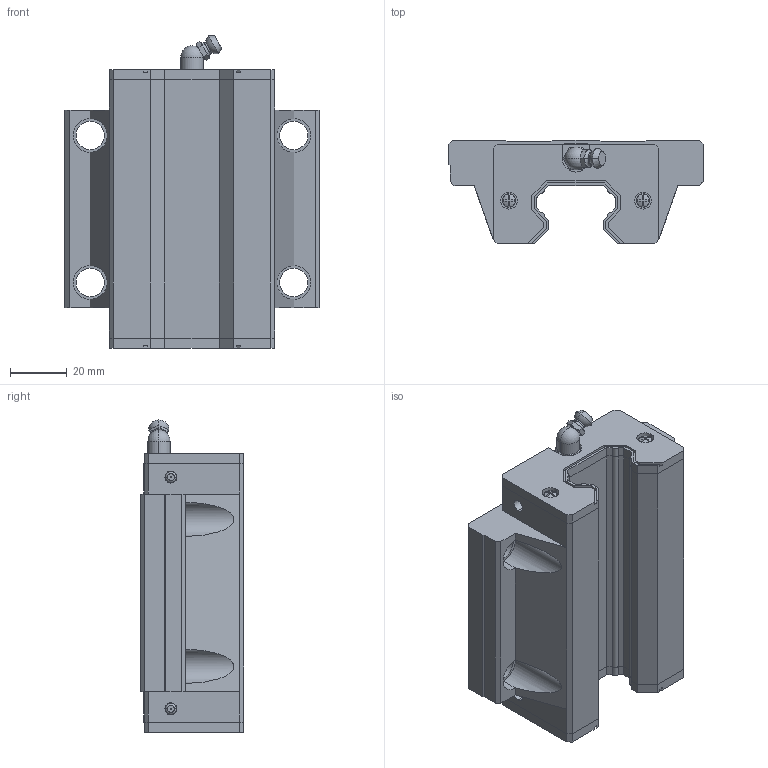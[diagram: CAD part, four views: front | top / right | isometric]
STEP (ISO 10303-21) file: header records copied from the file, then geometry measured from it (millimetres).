
FILE_DESCRIPTION (( 'STEP AP203' ), '1' );
FILE_NAME ('HGW30CC.STEP', '2021-10-22T07:52:53', ( '微软用户' ), ( '微软中国' ), 'SwSTEP 2.0', 'SolidWorks 2012', '' );
FILE_SCHEMA (( 'CONFIG_CONTROL_DESIGN' ));
Length unit declared in the file: millimetre
Products named in the file (1): HGW30CC
Bounding box: 90 x 36.5 x 110.4 mm (x, y, z)
Volume: 194257.8 mm3; surface area: 40053.9 mm2
Topology: 3 solids, 3 shells, 381 faces, 998 edges, 649 vertices
Faces by surface type: plane 256, cylinder 76, cone 23, torus 20, sphere 6
Entity records: 12238 total; most frequent: CARTESIAN_POINT 2647, ORIENTED_EDGE 1988, DIRECTION 1967, EDGE_CURVE 994, VECTOR 681, LINE 681, VERTEX_POINT 647, AXIS2_PLACEMENT_3D 643
